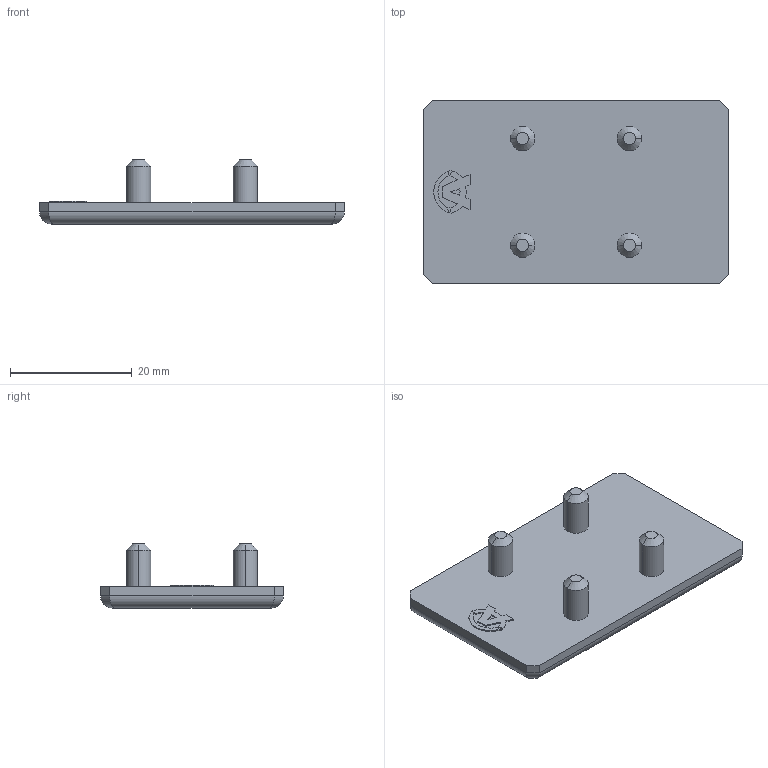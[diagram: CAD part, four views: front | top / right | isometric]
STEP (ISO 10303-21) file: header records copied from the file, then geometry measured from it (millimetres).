
FILE_DESCRIPTION (( 'STEP AP214' ), '1' );
FILE_NAME ('084.201.069.STEP', '2021-02-05T10:12:54', ( '' ), ( '' ), 'SwSTEP 2.0', 'SolidWorks 2018', '' );
FILE_SCHEMA (( 'AUTOMOTIVE_DESIGN' ));
Length unit declared in the file: millimetre
Products named in the file (1): 084.201.069
Bounding box: 50 x 30 x 10.5 mm (x, y, z)
Volume: 5438 mm3; surface area: 3729.1 mm2
Topology: 1 solids, 1 shells, 79 faces, 194 edges, 124 vertices
Faces by surface type: plane 46, cylinder 25, cone 8
Entity records: 2336 total; most frequent: CARTESIAN_POINT 422, DIRECTION 388, ORIENTED_EDGE 388, EDGE_CURVE 194, LINE 144, VECTOR 144, VERTEX_POINT 124, AXIS2_PLACEMENT_3D 122
